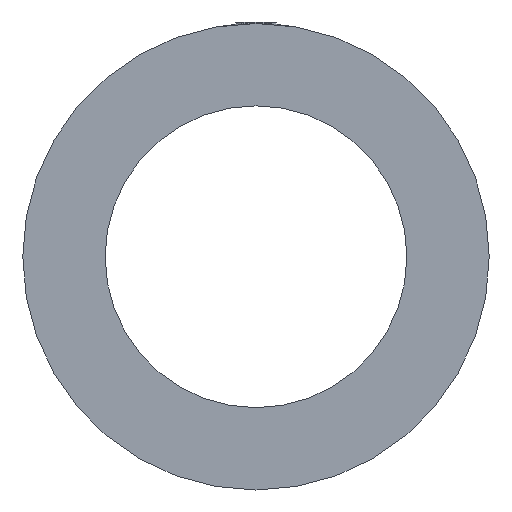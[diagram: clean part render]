
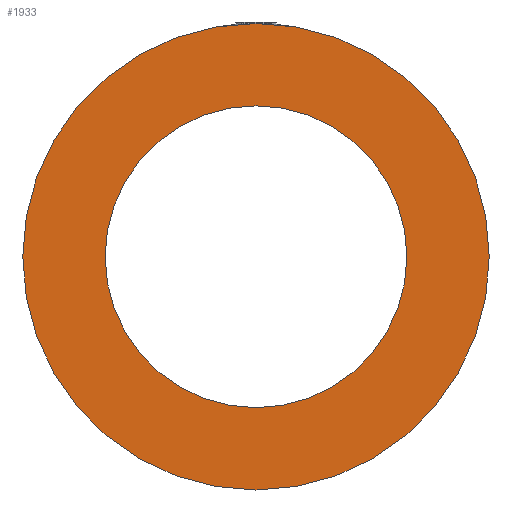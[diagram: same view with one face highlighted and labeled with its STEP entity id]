
A CAD part, left-side view. The second image highlights one B-rep face of the part: STEP entity #1933.
In plain terms, the highlighted planar face has unit normal (-1, 0, 0).
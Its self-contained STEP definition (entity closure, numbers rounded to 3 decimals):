
#145 = VERTEX_POINT ( 'NONE', #2897 ) ;
#187 = CARTESIAN_POINT ( 'NONE',  ( 0., 0., -51.1 ) ) ;
#203 = EDGE_CURVE ( 'NONE', #1251, #969, #1768, .T. ) ;
#222 = EDGE_CURVE ( 'NONE', #506, #145, #1152, .T. ) ;
#234 = CIRCLE ( 'NONE', #1992, 51.1 ) ;
#303 = AXIS2_PLACEMENT_3D ( 'NONE', #1328, #1318, #1307 ) ;
#404 = CARTESIAN_POINT ( 'NONE',  ( 0., 0., -79. ) ) ;
#506 = VERTEX_POINT ( 'NONE', #404 ) ;
#969 = VERTEX_POINT ( 'NONE', #187 ) ;
#1006 = AXIS2_PLACEMENT_3D ( 'NONE', #2261, #2255, #2249 ) ;
#1031 = AXIS2_PLACEMENT_3D ( 'NONE', #2534, #2514, #2511 ) ;
#1082 = FACE_OUTER_BOUND ( 'NONE', #2917, .T. ) ;
#1152 = CIRCLE ( 'NONE', #1006, 79. ) ;
#1223 = ORIENTED_EDGE ( 'NONE', *, *, #1417, .T. ) ;
#1251 = VERTEX_POINT ( 'NONE', #1599 ) ;
#1291 = CIRCLE ( 'NONE', #303, 79. ) ;
#1303 = FACE_BOUND ( 'NONE', #2007, .T. ) ;
#1307 = DIRECTION ( 'NONE',  ( 0., 0., 1. ) ) ;
#1318 = DIRECTION ( 'NONE',  ( -1., 0., 0. ) ) ;
#1328 = CARTESIAN_POINT ( 'NONE',  ( 0., 0., 0. ) ) ;
#1368 = CARTESIAN_POINT ( 'NONE',  ( 0., 0., 0. ) ) ;
#1417 = EDGE_CURVE ( 'NONE', #145, #506, #1291, .T. ) ;
#1589 = DIRECTION ( 'NONE',  ( 0., 0., 1. ) ) ;
#1595 = DIRECTION ( 'NONE',  ( -1., 0., 0. ) ) ;
#1599 = CARTESIAN_POINT ( 'NONE',  ( 0., 0., 51.1 ) ) ;
#1648 = AXIS2_PLACEMENT_3D ( 'NONE', #2983, #2971, #2963 ) ;
#1768 = CIRCLE ( 'NONE', #1031, 51.1 ) ;
#1933 = ADVANCED_FACE ( 'NONE', ( #1303, #1082 ), #3041, .F. ) ;
#1992 = AXIS2_PLACEMENT_3D ( 'NONE', #1368, #1595, #1589 ) ;
#2007 = EDGE_LOOP ( 'NONE', ( #2144, #2666 ) ) ;
#2084 = EDGE_CURVE ( 'NONE', #969, #1251, #234, .T. ) ;
#2144 = ORIENTED_EDGE ( 'NONE', *, *, #203, .F. ) ;
#2249 = DIRECTION ( 'NONE',  ( 0., 0., 1. ) ) ;
#2255 = DIRECTION ( 'NONE',  ( -1., 0., 0. ) ) ;
#2261 = CARTESIAN_POINT ( 'NONE',  ( 0., 0., 0. ) ) ;
#2393 = ORIENTED_EDGE ( 'NONE', *, *, #222, .T. ) ;
#2511 = DIRECTION ( 'NONE',  ( 0., 0., 1. ) ) ;
#2514 = DIRECTION ( 'NONE',  ( -1., 0., 0. ) ) ;
#2534 = CARTESIAN_POINT ( 'NONE',  ( 0., 0., 0. ) ) ;
#2666 = ORIENTED_EDGE ( 'NONE', *, *, #2084, .F. ) ;
#2897 = CARTESIAN_POINT ( 'NONE',  ( 0., 0., 79. ) ) ;
#2917 = EDGE_LOOP ( 'NONE', ( #1223, #2393 ) ) ;
#2963 = DIRECTION ( 'NONE',  ( 0., 0., -1. ) ) ;
#2971 = DIRECTION ( 'NONE',  ( 1., 0., 0. ) ) ;
#2983 = CARTESIAN_POINT ( 'NONE',  ( 0., 51.1, 0. ) ) ;
#3041 = PLANE ( 'NONE',  #1648 ) ;
